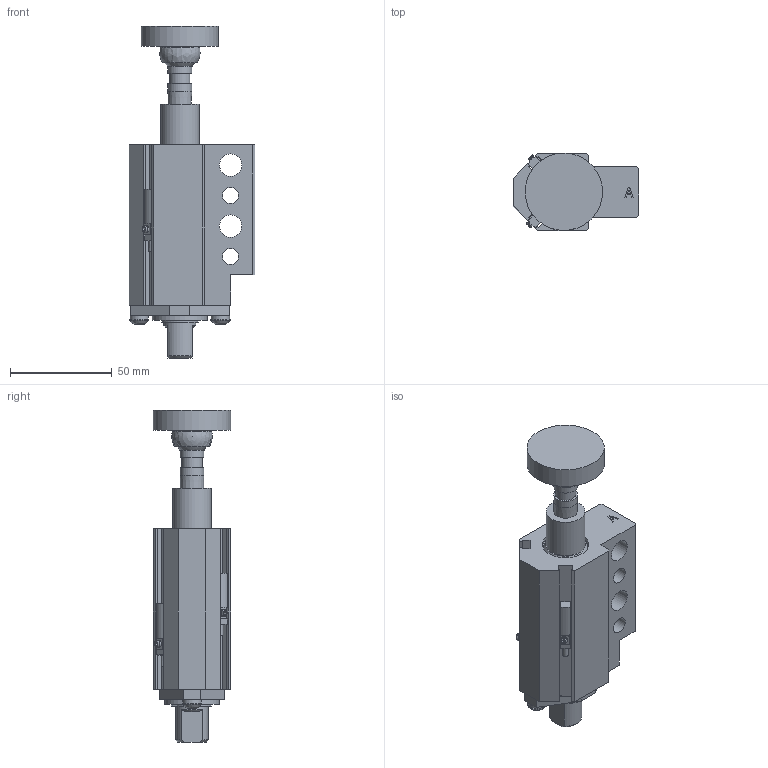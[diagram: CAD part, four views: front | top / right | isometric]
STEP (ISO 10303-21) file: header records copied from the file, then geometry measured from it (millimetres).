
FILE_DESCRIPTION(/* description */ ('MINI PASS THRU GROUND BLOCK'),/* implementation_level */ '2;1');
FILE_NAME(/* name */ 'C:\Vault Workspace\CAD\Welker\Cylinders\GBM\GBMBAL3.stp',/* time_stamp */ '2021-06-25T07:45:04-04:00',/* author */ ('KPL'),/* organization */ (''),/* preprocessor_version */ 'ST-DEVELOPER v18.1',/* originating_system */ 'Autodesk Inventor 2020',/* authorisation */ '');
FILE_SCHEMA (('AUTOMOTIVE_DESIGN { 1 0 10303 214 3 1 1 }'));
Products named in the file (11): GBML01; 91590A126; 96100A152; L3 Sensor 1; M5X0.8-10 BHCS; NL5; GBME01A; GBME02; GBME04; SN-1412; AN-05U2145
Assembly tree (13 placements, depth 2):
  GBML01
    91590A126
    96100A152
    L3 Sensor 1  x2
    M5X0.8-10 BHCS  x2
    NL5  x2
    GBME01A
    GBME02
    GBME04
    SN-1412
    AN-05U2145
Bounding box: 62 x 38.1 x 163.5 mm (x, y, z)
Volume: 139677.4 mm3; surface area: 51881.3 mm2
Topology: 13 solids, 13 shells, 437 faces, 1198 edges, 802 vertices
Faces by surface type: plane 312, cylinder 97, cone 18, torus 4, sphere 4, bspline 2
Full cylindrical faces by diameter (mm): 1.194 x2, 2.9 x2, 4.134 x2, 5 x2, 5.4 x2, 5.5 x2, 6.647 x1, 8 x2, 9 x2, 9.5 x2, 10 x1, 11 x2, 11.76 x2, 14.935 x1, 15.875 x3, 16.383 x1, 19.05 x1, 19.177 x1, 22.225 x2, 22.784 x1, 24.613 x1, 25.654 x1, 25.705 x1, 26.987 x1, 28.591 x1, 28.667 x1, 38.1 x1
Entity records: 9983 total; most frequent: CARTESIAN_POINT 1738, DIRECTION 1662, ORIENTED_EDGE 1576, EDGE_CURVE 788, AXIS2_PLACEMENT_3D 573, VERTEX_POINT 539, LINE 516, VECTOR 516
